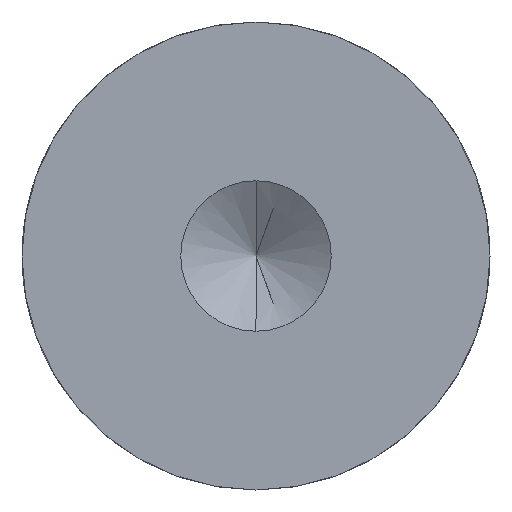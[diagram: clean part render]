
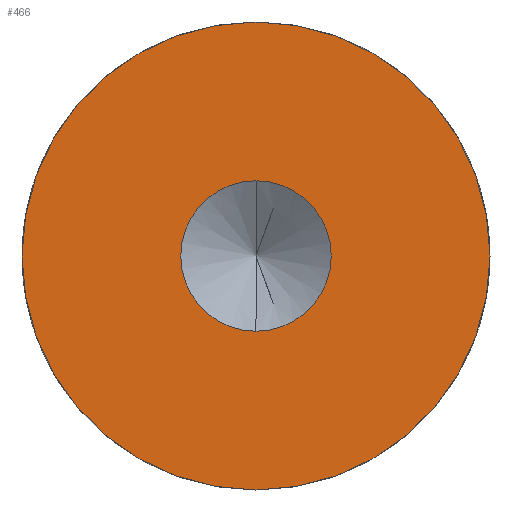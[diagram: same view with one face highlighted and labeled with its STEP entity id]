
A CAD part, left-side view. The second image highlights one B-rep face of the part: STEP entity #466.
In plain terms, the highlighted planar face has unit normal (-1, 0, 0).
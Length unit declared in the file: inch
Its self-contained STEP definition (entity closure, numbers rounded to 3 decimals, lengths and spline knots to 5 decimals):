
#22 = FACE_OUTER_BOUND ( 'NONE', #247, .T. ) ;
#66 = DIRECTION ( 'NONE',  ( 0., -1., 0. ) ) ;
#97 = DIRECTION ( 'NONE',  ( 0., -1., 0. ) ) ;
#108 = EDGE_CURVE ( 'NONE', #153, #231, #341, .T. ) ;
#112 = CIRCLE ( 'NONE', #637, 0.3125 ) ;
#130 = CIRCLE ( 'NONE', #332, 0.1005 ) ;
#153 = VERTEX_POINT ( 'NONE', #387 ) ;
#170 = EDGE_CURVE ( 'NONE', #231, #153, #112, .T. ) ;
#171 = CARTESIAN_POINT ( 'NONE',  ( -0.593, 0., 0. ) ) ;
#195 = DIRECTION ( 'NONE',  ( -1., 0., 0. ) ) ;
#196 = CIRCLE ( 'NONE', #268, 0.1005 ) ;
#201 = CARTESIAN_POINT ( 'NONE',  ( -0.593, 0., 0. ) ) ;
#212 = DIRECTION ( 'NONE',  ( -1., 0., 0. ) ) ;
#231 = VERTEX_POINT ( 'NONE', #303 ) ;
#246 = VERTEX_POINT ( 'NONE', #454 ) ;
#247 = EDGE_LOOP ( 'NONE', ( #355, #360 ) ) ;
#248 = ORIENTED_EDGE ( 'NONE', *, *, #434, .F. ) ;
#268 = AXIS2_PLACEMENT_3D ( 'NONE', #505, #504, #501 ) ;
#303 = CARTESIAN_POINT ( 'NONE',  ( -0.593, -0.3125, 0. ) ) ;
#332 = AXIS2_PLACEMENT_3D ( 'NONE', #617, #616, #607 ) ;
#341 = CIRCLE ( 'NONE', #606, 0.3125 ) ;
#352 = EDGE_LOOP ( 'NONE', ( #248, #535 ) ) ;
#355 = ORIENTED_EDGE ( 'NONE', *, *, #170, .T. ) ;
#356 = FACE_BOUND ( 'NONE', #352, .T. ) ;
#360 = ORIENTED_EDGE ( 'NONE', *, *, #108, .T. ) ;
#387 = CARTESIAN_POINT ( 'NONE',  ( -0.593, 0.3125, 0. ) ) ;
#434 = EDGE_CURVE ( 'NONE', #246, #623, #130, .T. ) ;
#454 = CARTESIAN_POINT ( 'NONE',  ( -0.593, 0., 0.1005 ) ) ;
#466 = ADVANCED_FACE ( 'NONE', ( #356, #22 ), #593, .F. ) ;
#501 = DIRECTION ( 'NONE',  ( 0., 0., 1. ) ) ;
#504 = DIRECTION ( 'NONE',  ( -1., 0., 0. ) ) ;
#505 = CARTESIAN_POINT ( 'NONE',  ( -0.593, 0., 0. ) ) ;
#515 = CARTESIAN_POINT ( 'NONE',  ( -0.593, 0., -0.1005 ) ) ;
#535 = ORIENTED_EDGE ( 'NONE', *, *, #645, .F. ) ;
#579 = DIRECTION ( 'NONE',  ( 0., 1., 0. ) ) ;
#585 = DIRECTION ( 'NONE',  ( 1., 0., 0. ) ) ;
#588 = CARTESIAN_POINT ( 'NONE',  ( -0.593, 0., 0. ) ) ;
#593 = PLANE ( 'NONE',  #619 ) ;
#606 = AXIS2_PLACEMENT_3D ( 'NONE', #171, #212, #66 ) ;
#607 = DIRECTION ( 'NONE',  ( 0., 0., 1. ) ) ;
#616 = DIRECTION ( 'NONE',  ( -1., 0., 0. ) ) ;
#617 = CARTESIAN_POINT ( 'NONE',  ( -0.593, 0., 0. ) ) ;
#619 = AXIS2_PLACEMENT_3D ( 'NONE', #588, #585, #579 ) ;
#623 = VERTEX_POINT ( 'NONE', #515 ) ;
#637 = AXIS2_PLACEMENT_3D ( 'NONE', #201, #195, #97 ) ;
#645 = EDGE_CURVE ( 'NONE', #623, #246, #196, .T. ) ;
